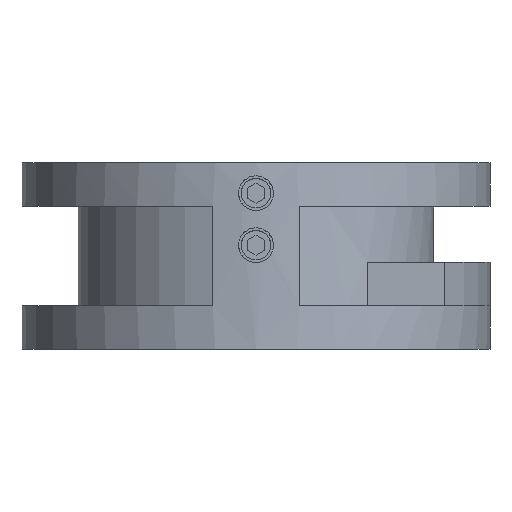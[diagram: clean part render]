
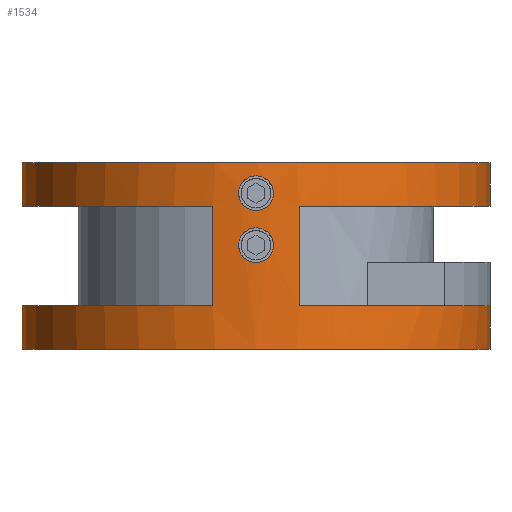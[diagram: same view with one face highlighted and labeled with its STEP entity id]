
A CAD part, front view. The second image highlights one B-rep face of the part: STEP entity #1534.
In plain terms, the highlighted cylindrical face has radius 54 mm (diameter 108 mm), a partial arc.
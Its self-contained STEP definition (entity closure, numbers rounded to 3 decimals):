
#7=CARTESIAN_POINT('',(0.,0.,-21.5));
#8=DIRECTION('',(0.,0.,1.));
#9=DIRECTION('',(-1.,0.,0.));
#10=AXIS2_PLACEMENT_3D('',#7,#8,#9);
#110=DIRECTION('',(0.,0.,1.));
#111=VECTOR('',#110,10.);
#112=CARTESIAN_POINT('',(54.,0.,-21.5));
#113=LINE('',#112,#111);
#132=DIRECTION('',(0.,0.,1.));
#133=VECTOR('',#132,10.);
#134=CARTESIAN_POINT('',(54.,0.,11.5));
#135=LINE('',#134,#133);
#210=CARTESIAN_POINT('',(0.,0.,-11.5));
#211=DIRECTION('',(0.,0.,1.));
#212=DIRECTION('',(0.806,-0.593,0.));
#213=AXIS2_PLACEMENT_3D('',#210,#211,#212);
#215=DIRECTION('',(0.,0.,1.));
#216=VECTOR('',#215,10.);
#217=CARTESIAN_POINT('',(-54.,0.,-21.5));
#218=LINE('',#217,#216);
#219=CARTESIAN_POINT('',(0.,0.,-11.5));
#220=DIRECTION('',(0.,0.,1.));
#221=DIRECTION('',(-1.,0.,0.));
#222=AXIS2_PLACEMENT_3D('',#219,#220,#221);
#224=DIRECTION('',(0.,0.,1.));
#225=VECTOR('',#224,23.);
#226=CARTESIAN_POINT('',(-10.,-53.066,-11.5));
#227=LINE('',#226,#225);
#228=CARTESIAN_POINT('',(0.,0.,11.5));
#229=DIRECTION('',(0.,0.,1.));
#230=DIRECTION('',(-1.,0.,0.));
#231=AXIS2_PLACEMENT_3D('',#228,#229,#230);
#233=DIRECTION('',(0.,0.,1.));
#234=VECTOR('',#233,10.);
#235=CARTESIAN_POINT('',(-54.,0.,11.5));
#236=LINE('',#235,#234);
#237=CARTESIAN_POINT('',(0.,0.,11.5));
#238=DIRECTION('',(0.,0.,1.));
#239=DIRECTION('',(0.185,-0.983,0.));
#240=AXIS2_PLACEMENT_3D('',#237,#238,#239);
#242=CARTESIAN_POINT('',(0.,0.,-11.5));
#243=DIRECTION('',(0.,0.,1.));
#244=DIRECTION('',(0.185,-0.983,0.));
#245=AXIS2_PLACEMENT_3D('',#242,#243,#244);
#247=CARTESIAN_POINT('',(-3.4,-53.893,14.5));
#248=CARTESIAN_POINT('',(-3.4,-53.893,14.197));
#249=CARTESIAN_POINT('',(-3.322,-53.898,13.614));
#250=CARTESIAN_POINT('',(-2.979,-53.918,12.78));
#251=CARTESIAN_POINT('',(-2.432,-53.946,12.068));
#252=CARTESIAN_POINT('',(-1.719,-53.975,11.521));
#253=CARTESIAN_POINT('',(-0.889,-53.995,
11.178));
#254=CARTESIAN_POINT('',(0.,-54.002,11.061));
#255=CARTESIAN_POINT('',(0.889,-53.995,11.178));
#256=CARTESIAN_POINT('',(1.719,-53.975,11.521));
#257=CARTESIAN_POINT('',(2.432,-53.946,12.068));
#258=CARTESIAN_POINT('',(2.979,-53.918,12.78));
#259=CARTESIAN_POINT('',(3.322,-53.898,13.614));
#260=CARTESIAN_POINT('',(3.4,-53.893,14.197));
#261=CARTESIAN_POINT('',(3.4,-53.893,14.5));
#263=CARTESIAN_POINT('',(3.4,-53.893,14.5));
#264=CARTESIAN_POINT('',(3.4,-53.893,14.803));
#265=CARTESIAN_POINT('',(3.322,-53.898,15.386));
#266=CARTESIAN_POINT('',(2.979,-53.918,16.22));
#267=CARTESIAN_POINT('',(2.432,-53.946,16.932));
#268=CARTESIAN_POINT('',(1.719,-53.975,17.479));
#269=CARTESIAN_POINT('',(0.889,-53.995,17.822));
#270=CARTESIAN_POINT('',(0.,-54.002,
17.939));
#271=CARTESIAN_POINT('',(-0.889,-53.995,
17.822));
#272=CARTESIAN_POINT('',(-1.719,-53.975,17.479));
#273=CARTESIAN_POINT('',(-2.432,-53.946,16.932));
#274=CARTESIAN_POINT('',(-2.979,-53.918,16.22));
#275=CARTESIAN_POINT('',(-3.322,-53.898,15.386));
#276=CARTESIAN_POINT('',(-3.4,-53.893,14.803));
#277=CARTESIAN_POINT('',(-3.4,-53.893,14.5));
#279=CARTESIAN_POINT('',(-3.4,-53.893,2.5));
#280=CARTESIAN_POINT('',(-3.4,-53.893,2.197));
#281=CARTESIAN_POINT('',(-3.322,-53.898,1.614));
#282=CARTESIAN_POINT('',(-2.979,-53.918,
0.78));
#283=CARTESIAN_POINT('',(-2.432,-53.946,
0.068));
#284=CARTESIAN_POINT('',(-1.719,-53.975,
-0.479));
#285=CARTESIAN_POINT('',(-0.889,-53.995,
-0.822));
#286=CARTESIAN_POINT('',(0.,-54.002,
-0.939));
#287=CARTESIAN_POINT('',(0.889,-53.995,
-0.822));
#288=CARTESIAN_POINT('',(1.719,-53.975,
-0.479));
#289=CARTESIAN_POINT('',(2.432,-53.946,0.068));
#290=CARTESIAN_POINT('',(2.979,-53.918,0.78));
#291=CARTESIAN_POINT('',(3.322,-53.898,1.614));
#292=CARTESIAN_POINT('',(3.4,-53.893,2.197));
#293=CARTESIAN_POINT('',(3.4,-53.893,2.5));
#295=CARTESIAN_POINT('',(3.4,-53.893,2.5));
#296=CARTESIAN_POINT('',(3.4,-53.893,2.803));
#297=CARTESIAN_POINT('',(3.322,-53.898,3.386));
#298=CARTESIAN_POINT('',(2.979,-53.918,4.22));
#299=CARTESIAN_POINT('',(2.432,-53.946,4.932));
#300=CARTESIAN_POINT('',(1.719,-53.975,5.479));
#301=CARTESIAN_POINT('',(0.889,-53.995,5.822));
#302=CARTESIAN_POINT('',(0.,-54.002,
5.939));
#303=CARTESIAN_POINT('',(-0.889,-53.995,
5.822));
#304=CARTESIAN_POINT('',(-1.719,-53.975,5.479));
#305=CARTESIAN_POINT('',(-2.432,-53.946,4.932));
#306=CARTESIAN_POINT('',(-2.979,-53.918,4.22));
#307=CARTESIAN_POINT('',(-3.322,-53.898,3.386));
#308=CARTESIAN_POINT('',(-3.4,-53.893,2.803));
#309=CARTESIAN_POINT('',(-3.4,-53.893,2.5));
#426=DIRECTION('',(0.,0.,1.));
#427=VECTOR('',#426,23.);
#428=CARTESIAN_POINT('',(10.,-53.066,-11.5));
#429=LINE('',#428,#427);
#435=CARTESIAN_POINT('',(0.,0.,21.5));
#436=DIRECTION('',(0.,0.,1.));
#437=DIRECTION('',(-1.,0.,0.));
#438=AXIS2_PLACEMENT_3D('',#435,#436,#437);
#1100=CARTESIAN_POINT('',(54.,0.,-21.5));
#1101=CARTESIAN_POINT('',(-54.,0.,-21.5));
#1102=VERTEX_POINT('',#1100);
#1103=VERTEX_POINT('',#1101);
#1104=CARTESIAN_POINT('',(54.,0.,21.5));
#1105=CARTESIAN_POINT('',(-54.,0.,21.5));
#1106=VERTEX_POINT('',#1104);
#1107=VERTEX_POINT('',#1105);
#1116=CARTESIAN_POINT('',(54.,0.,11.5));
#1117=VERTEX_POINT('',#1116);
#1118=CARTESIAN_POINT('',(-54.,0.,-11.5));
#1119=VERTEX_POINT('',#1118);
#1120=CARTESIAN_POINT('',(-54.,0.,11.5));
#1121=VERTEX_POINT('',#1120);
#1131=CARTESIAN_POINT('',(-10.,-53.066,-11.5));
#1133=VERTEX_POINT('',#1131);
#1134=CARTESIAN_POINT('',(10.,-53.066,-11.5));
#1136=VERTEX_POINT('',#1134);
#1147=CARTESIAN_POINT('',(-10.,-53.066,11.5));
#1149=VERTEX_POINT('',#1147);
#1150=CARTESIAN_POINT('',(10.,-53.066,11.5));
#1152=VERTEX_POINT('',#1150);
#1158=CARTESIAN_POINT('',(43.497,-32.,-11.5));
#1159=CARTESIAN_POINT('',(54.,0.,-11.5));
#1160=VERTEX_POINT('',#1158);
#1161=VERTEX_POINT('',#1159);
#1343=CARTESIAN_POINT('',(3.4,-53.893,14.5));
#1345=VERTEX_POINT('',#1343);
#1347=CARTESIAN_POINT('',(-3.4,-53.893,14.5));
#1349=VERTEX_POINT('',#1347);
#1351=CARTESIAN_POINT('',(3.4,-53.893,2.5));
#1353=VERTEX_POINT('',#1351);
#1355=CARTESIAN_POINT('',(-3.4,-53.893,2.5));
#1357=VERTEX_POINT('',#1355);
#1495=CARTESIAN_POINT('',(0.,0.,-21.5));
#1496=DIRECTION('',(0.,0.,1.));
#1497=DIRECTION('',(1.,0.,0.));
#1498=AXIS2_PLACEMENT_3D('',#1495,#1496,#1497);
#1499=CYLINDRICAL_SURFACE('',#1498,54.);
#1500=ORIENTED_EDGE('',*,*,#1451,.T.);
#1501=ORIENTED_EDGE('',*,*,#1449,.F.);
#1502=ORIENTED_EDGE('',*,*,#1365,.F.);
#1503=ORIENTED_EDGE('',*,*,#1477,.T.);
#1505=ORIENTED_EDGE('',*,*,#1504,.T.);
#1507=ORIENTED_EDGE('',*,*,#1506,.T.);
#1509=ORIENTED_EDGE('',*,*,#1508,.F.);
#1510=ORIENTED_EDGE('',*,*,#1469,.T.);
#1512=ORIENTED_EDGE('',*,*,#1511,.T.);
#1513=ORIENTED_EDGE('',*,*,#1465,.F.);
#1515=ORIENTED_EDGE('',*,*,#1514,.F.);
#1517=ORIENTED_EDGE('',*,*,#1516,.F.);
#1519=ORIENTED_EDGE('',*,*,#1518,.T.);
#1520=EDGE_LOOP('',(#1500,#1501,#1502,#1503,#1505,#1507,#1509,#1510,#1512,#1513,
#1515,#1517,#1519));
#1521=FACE_OUTER_BOUND('',#1520,.F.);
#1523=ORIENTED_EDGE('',*,*,#1522,.T.);
#1525=ORIENTED_EDGE('',*,*,#1524,.T.);
#1526=EDGE_LOOP('',(#1523,#1525));
#1527=FACE_BOUND('',#1526,.F.);
#1529=ORIENTED_EDGE('',*,*,#1528,.T.);
#1531=ORIENTED_EDGE('',*,*,#1530,.T.);
#1532=EDGE_LOOP('',(#1529,#1531));
#1533=FACE_BOUND('',#1532,.F.);
#1534=ADVANCED_FACE('',(#1521,#1527,#1533),#1499,.T.);
#11=CIRCLE('',#10,54.);
#214=CIRCLE('',#213,54.);
#223=CIRCLE('',#222,54.);
#232=CIRCLE('',#231,54.);
#241=CIRCLE('',#240,54.);
#246=CIRCLE('',#245,54.);
#262=B_SPLINE_CURVE_WITH_KNOTS('',3,(#247,#248,#249,#250,#251,#252,#253,#254,
#255,#256,#257,#258,#259,#260,#261),.UNSPECIFIED.,.F.,.F.,(4,1,1,1,1,1,1,1,1,1,
1,1,4),(0.,0.083,0.167,0.25,0.333,
0.417,0.5,0.583,0.667,0.75,
0.833,0.917,1.),.UNSPECIFIED.);
#278=B_SPLINE_CURVE_WITH_KNOTS('',3,(#263,#264,#265,#266,#267,#268,#269,#270,
#271,#272,#273,#274,#275,#276,#277),.UNSPECIFIED.,.F.,.F.,(4,1,1,1,1,1,1,1,1,1,
1,1,4),(0.,0.083,0.167,0.25,0.333,
0.417,0.5,0.583,0.667,0.75,
0.833,0.917,1.),.UNSPECIFIED.);
#294=B_SPLINE_CURVE_WITH_KNOTS('',3,(#279,#280,#281,#282,#283,#284,#285,#286,
#287,#288,#289,#290,#291,#292,#293),.UNSPECIFIED.,.F.,.F.,(4,1,1,1,1,1,1,1,1,1,
1,1,4),(0.,0.083,0.167,0.25,0.333,
0.417,0.5,0.583,0.667,0.75,
0.833,0.917,1.),.UNSPECIFIED.);
#310=B_SPLINE_CURVE_WITH_KNOTS('',3,(#295,#296,#297,#298,#299,#300,#301,#302,
#303,#304,#305,#306,#307,#308,#309),.UNSPECIFIED.,.F.,.F.,(4,1,1,1,1,1,1,1,1,1,
1,1,4),(0.,0.083,0.167,0.25,0.333,
0.417,0.5,0.583,0.667,0.75,
0.833,0.917,1.),.UNSPECIFIED.);
#439=CIRCLE('',#438,54.);
#1365=EDGE_CURVE('',#1103,#1102,#11,.T.);
#1449=EDGE_CURVE('',#1102,#1161,#113,.T.);
#1451=EDGE_CURVE('',#1160,#1161,#214,.T.);
#1465=EDGE_CURVE('',#1117,#1106,#135,.T.);
#1469=EDGE_CURVE('',#1121,#1107,#236,.T.);
#1477=EDGE_CURVE('',#1103,#1119,#218,.T.);
#1504=EDGE_CURVE('',#1119,#1133,#223,.T.);
#1506=EDGE_CURVE('',#1133,#1149,#227,.T.);
#1508=EDGE_CURVE('',#1121,#1149,#232,.T.);
#1511=EDGE_CURVE('',#1107,#1106,#439,.T.);
#1514=EDGE_CURVE('',#1152,#1117,#241,.T.);
#1516=EDGE_CURVE('',#1136,#1152,#429,.T.);
#1518=EDGE_CURVE('',#1136,#1160,#246,.T.);
#1522=EDGE_CURVE('',#1349,#1345,#262,.T.);
#1524=EDGE_CURVE('',#1345,#1349,#278,.T.);
#1528=EDGE_CURVE('',#1357,#1353,#294,.T.);
#1530=EDGE_CURVE('',#1353,#1357,#310,.T.);
